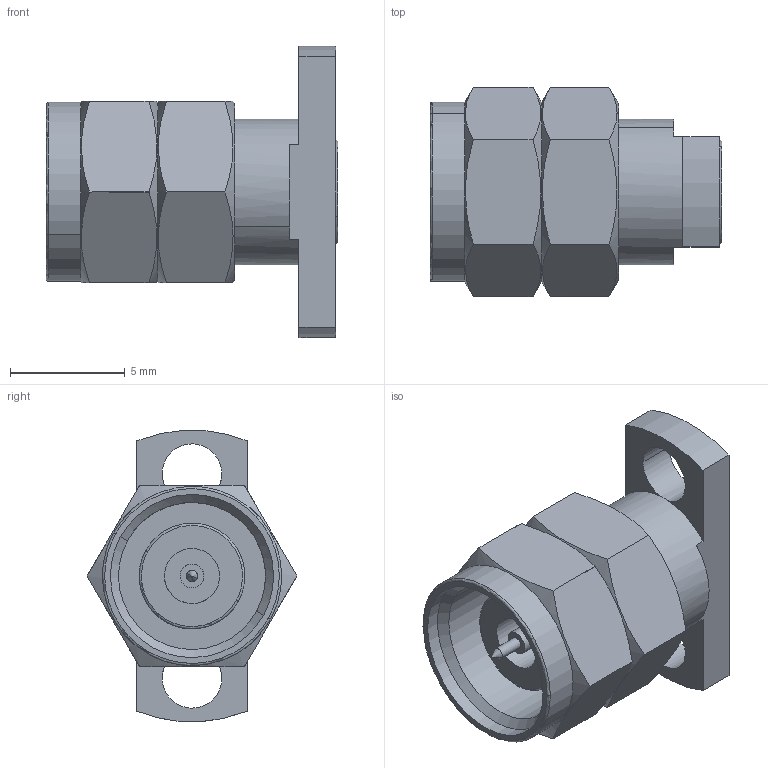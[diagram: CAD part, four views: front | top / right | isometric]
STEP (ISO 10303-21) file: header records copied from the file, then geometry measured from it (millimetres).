
FILE_DESCRIPTION(('CATIA V5 STEP Exchange'),'2;1');
FILE_NAME('F:\Work SZ\CMP 图纸\Precision Coaxial Connector\2.4mm\97-03-9E5-012\97-03-9E5-012(REV.A).stp','2013-08-08T09:53:52+00:00',('none'),('none'),'CATIA Version 5 Release 17 (IN-10)','CATIA V5 STEP AP203','none');
FILE_SCHEMA(('CONFIG_CONTROL_DESIGN'));
Length unit declared in the file: millimetre
Products named in the file (1): 97-03-9E5-012
Bounding box: 12.7 x 9.12 x 12.68 mm (x, y, z)
Surface area: 711.4 mm2 (no closed solid volume)
Topology: 0 solids, 1 shells, 91 faces, 236 edges, 150 vertices
Faces by surface type: plane 35, cylinder 28, cone 24, torus 4
Entity records: 3336 total; most frequent: CARTESIAN_POINT 1339, ORIENTED_EDGE 462, DIRECTION 290, EDGE_CURVE 231, VERTEX_POINT 149, AXIS2_PLACEMENT_3D 129, EDGE_LOOP 102, ADVANCED_FACE 91
